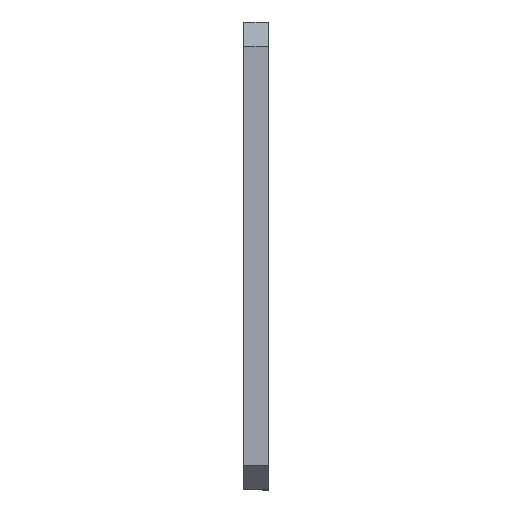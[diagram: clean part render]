
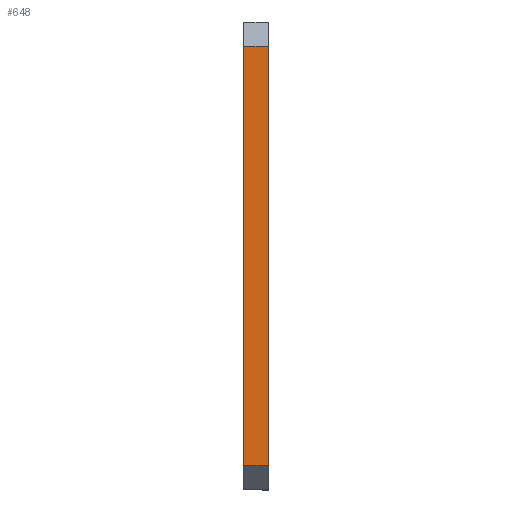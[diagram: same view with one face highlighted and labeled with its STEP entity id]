
A CAD part, top view. The second image highlights one B-rep face of the part: STEP entity #648.
In plain terms, the highlighted planar face has unit normal (0, 0, 1).
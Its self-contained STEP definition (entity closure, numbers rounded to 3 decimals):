
#64 = ORIENTED_EDGE ( 'NONE', *, *, #176, .T. ) ;
#65 = ORIENTED_EDGE ( 'NONE', *, *, #186, .F. ) ;
#66 = ORIENTED_EDGE ( 'NONE', *, *, #229, .F. ) ;
#67 = ORIENTED_EDGE ( 'NONE', *, *, #169, .T. ) ;
#105 = AXIS2_PLACEMENT_3D ( 'NONE', #830, #826, #824 ) ;
#169 = EDGE_CURVE ( 'NONE', #1156, #1161, #588, .T. ) ;
#176 = EDGE_CURVE ( 'NONE', #1161, #1147, #608, .T. ) ;
#186 = EDGE_CURVE ( 'NONE', #1155, #1147, #620, .T. ) ;
#229 = EDGE_CURVE ( 'NONE', #1156, #1155, #344, .T. ) ;
#344 = LINE ( 'NONE', #1015, #346 ) ;
#346 = VECTOR ( 'NONE', #1005, 1000. ) ;
#505 = FACE_OUTER_BOUND ( 'NONE', #551, .T. ) ;
#551 = EDGE_LOOP ( 'NONE', ( #64, #65, #66, #67 ) ) ;
#588 = LINE ( 'NONE', #1050, #595 ) ;
#595 = VECTOR ( 'NONE', #1047, 1000. ) ;
#606 = VECTOR ( 'NONE', #1001, 1000. ) ;
#608 = LINE ( 'NONE', #1003, #606 ) ;
#620 = LINE ( 'NONE', #939, #621 ) ;
#621 = VECTOR ( 'NONE', #899, 1000. ) ;
#648 = ADVANCED_FACE ( 'NONE', ( #505 ), #828, .F. ) ;
#704 = CARTESIAN_POINT ( 'NONE',  ( 3., -24.5, 16.5 ) ) ;
#709 = CARTESIAN_POINT ( 'NONE',  ( 0., -24.5, 16.5 ) ) ;
#710 = CARTESIAN_POINT ( 'NONE',  ( 0., 27.5, 16.5 ) ) ;
#718 = CARTESIAN_POINT ( 'NONE',  ( 3., 27.5, 16.5 ) ) ;
#824 = DIRECTION ( 'NONE',  ( 1., 0., 0. ) ) ;
#826 = DIRECTION ( 'NONE',  ( 0., 0., -1. ) ) ;
#828 = PLANE ( 'NONE',  #105 ) ;
#830 = CARTESIAN_POINT ( 'NONE',  ( 0., 27.5, 16.5 ) ) ;
#899 = DIRECTION ( 'NONE',  ( 1., 0., 0. ) ) ;
#939 = CARTESIAN_POINT ( 'NONE',  ( 0., 27.5, 16.5 ) ) ;
#1001 = DIRECTION ( 'NONE',  ( 0., 1., 0. ) ) ;
#1003 = CARTESIAN_POINT ( 'NONE',  ( 3., 27.5, 16.5 ) ) ;
#1005 = DIRECTION ( 'NONE',  ( 0., 1., 0. ) ) ;
#1015 = CARTESIAN_POINT ( 'NONE',  ( 0., 27.5, 16.5 ) ) ;
#1047 = DIRECTION ( 'NONE',  ( 1., 0., 0. ) ) ;
#1050 = CARTESIAN_POINT ( 'NONE',  ( 0., -24.5, 16.5 ) ) ;
#1147 = VERTEX_POINT ( 'NONE', #718 ) ;
#1155 = VERTEX_POINT ( 'NONE', #710 ) ;
#1156 = VERTEX_POINT ( 'NONE', #709 ) ;
#1161 = VERTEX_POINT ( 'NONE', #704 ) ;
